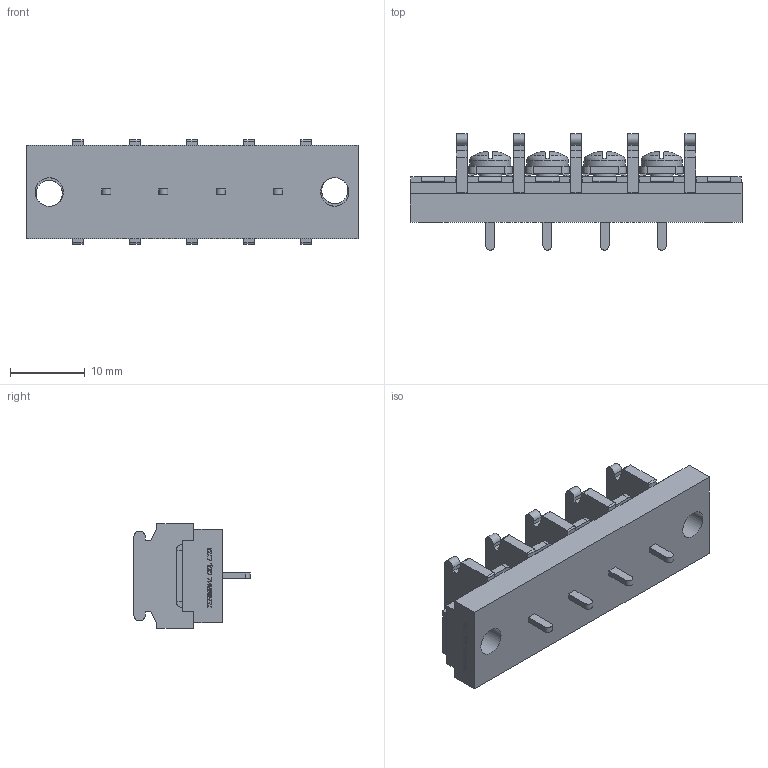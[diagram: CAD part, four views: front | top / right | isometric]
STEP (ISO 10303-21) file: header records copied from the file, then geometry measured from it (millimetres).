
FILE_DESCRIPTION(/* description */ ('Alibre Inc.'),/* implementation_level */ '2;1');
FILE_NAME(/* name */ 'export0',/* time_stamp */ '2015-10-23T19:17:27+09:00',/* author */ (''),/* organization */ (''),/* preprocessor_version */ 'ST-DEVELOPER v14',/* originating_system */ 'Alibre',/* authorisation */ '');
FILE_SCHEMA (('CONFIG_CONTROL_DESIGN'));
Length unit declared in the file: centimetre
Products named in the file (1): ID_1
Bounding box: 44.3 x 15.5 x 14 mm (x, y, z)
Volume: 3779.4 mm3; surface area: 3643.3 mm2
Topology: 1 solids, 1 shells, 888 faces, 2420 edges, 1592 vertices
Faces by surface type: plane 678, bspline 104, cylinder 74, cone 16, torus 8, sphere 8
Full cylindrical faces by diameter (mm): 3 x4, 3.5 x2, 3.8 x2, 5.5 x4
Entity records: 26757 total; most frequent: CARTESIAN_POINT 5941, ORIENTED_EDGE 4776, DIRECTION 3190, EDGE_CURVE 2388, VECTOR 1788, LINE 1788, VERTEX_POINT 1580, AXIS2_PLACEMENT_3D 1021
